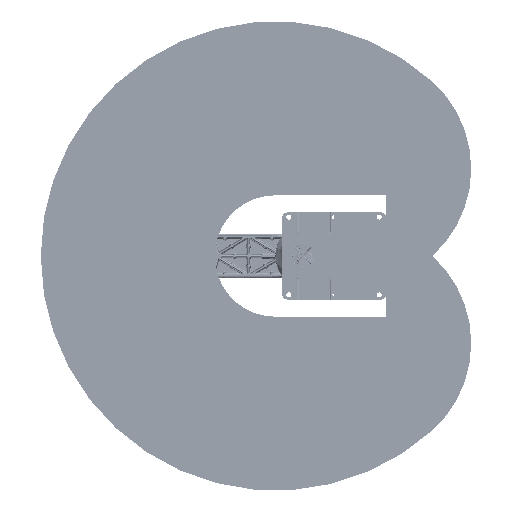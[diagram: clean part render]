
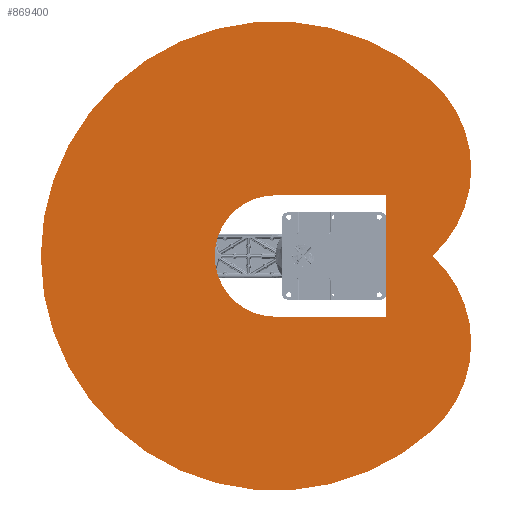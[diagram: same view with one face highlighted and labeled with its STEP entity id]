
A CAD part, front view. The second image highlights one B-rep face of the part: STEP entity #869400.
In plain terms, the highlighted planar face has unit normal (0, -1, 0) as drawn and (0, 0, 1) by its records, which use the part's own axes.
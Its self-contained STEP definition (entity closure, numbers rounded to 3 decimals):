
#2274 = DIRECTION ( 'NONE',  ( 0., 0., 1. ) ) ;
#10162 = DIRECTION ( 'NONE',  ( 1., 0., 0. ) ) ;
#15137 = CARTESIAN_POINT ( 'NONE',  ( 330., 181.173, 400. ) ) ;
#17711 = CIRCLE ( 'NONE', #107865, 350. ) ;
#56833 = VERTEX_POINT ( 'NONE', #691748 ) ;
#69684 = VERTEX_POINT ( 'NONE', #341684 ) ;
#78155 = ORIENTED_EDGE ( 'NONE', *, *, #392614, .F. ) ;
#86671 = CARTESIAN_POINT ( 'NONE',  ( 234.196, 0., 400. ) ) ;
#89444 = ORIENTED_EDGE ( 'NONE', *, *, #748259, .F. ) ;
#95468 = CARTESIAN_POINT ( 'NONE',  ( 234.196, 260.101, 400. ) ) ;
#103516 = EDGE_CURVE ( 'NONE', #289150, #197646, #707518, .T. ) ;
#107865 = AXIS2_PLACEMENT_3D ( 'NONE', #95468, #600248, #167870 ) ;
#118713 = ORIENTED_EDGE ( 'NONE', *, *, #328517, .T. ) ;
#132892 = EDGE_CURVE ( 'NONE', #69684, #778021, #386343, .T. ) ;
#154848 = CARTESIAN_POINT ( 'NONE',  ( 0., 0., 400. ) ) ;
#158576 = CARTESIAN_POINT ( 'NONE',  ( 468.391, 520.201, 400. ) ) ;
#164893 = DIRECTION ( 'NONE',  ( 0., 0., 1. ) ) ;
#167870 = DIRECTION ( 'NONE',  ( -1., 0., 0. ) ) ;
#178665 = AXIS2_PLACEMENT_3D ( 'NONE', #154848, #659840, #227382 ) ;
#188409 = AXIS2_PLACEMENT_3D ( 'NONE', #434539, #2274, #507146 ) ;
#197646 = VERTEX_POINT ( 'NONE', #509560 ) ;
#206833 = DIRECTION ( 'NONE',  ( 0., 0., 1. ) ) ;
#210384 = CARTESIAN_POINT ( 'NONE',  ( 0., 0., 400. ) ) ;
#227382 = DIRECTION ( 'NONE',  ( 1., 0., 0. ) ) ;
#239015 = DIRECTION ( 'NONE',  ( -1., 0., 0. ) ) ;
#253180 = VERTEX_POINT ( 'NONE', #460985 ) ;
#264084 = ORIENTED_EDGE ( 'NONE', *, *, #132892, .T. ) ;
#269076 = ORIENTED_EDGE ( 'NONE', *, *, #837313, .T. ) ;
#282910 = DIRECTION ( 'NONE',  ( 1., 0., 0. ) ) ;
#289150 = VERTEX_POINT ( 'NONE', #462271 ) ;
#304250 = PLANE ( 'NONE',  #414419 ) ;
#328517 = EDGE_CURVE ( 'NONE', #560217, #636438, #506893, .T. ) ;
#330890 = FACE_OUTER_BOUND ( 'NONE', #700179, .T. ) ;
#341684 = CARTESIAN_POINT ( 'NONE',  ( 0., 181.173, 400. ) ) ;
#362448 = ORIENTED_EDGE ( 'NONE', *, *, #545745, .T. ) ;
#369937 = AXIS2_PLACEMENT_3D ( 'NONE', #639308, #206833, #711917 ) ;
#372912 = CARTESIAN_POINT ( 'NONE',  ( 0., 181.173, 400. ) ) ;
#376818 = DIRECTION ( 'NONE',  ( 0., 0., -1. ) ) ;
#386343 = LINE ( 'NONE', #372912, #747817 ) ;
#392614 = EDGE_CURVE ( 'NONE', #253180, #197646, #808004, .T. ) ;
#394459 = EDGE_CURVE ( 'NONE', #778021, #289150, #749187, .T. ) ;
#405052 = CARTESIAN_POINT ( 'NONE',  ( 330., 181.173, 400. ) ) ;
#414419 = AXIS2_PLACEMENT_3D ( 'NONE', #86671, #376818, #881908 ) ;
#434539 = CARTESIAN_POINT ( 'NONE',  ( 0., 0., 400. ) ) ;
#460985 = CARTESIAN_POINT ( 'NONE',  ( -181.173, 0., 400. ) ) ;
#462271 = CARTESIAN_POINT ( 'NONE',  ( 330., -181.173, 400. ) ) ;
#500171 = FACE_BOUND ( 'NONE', #909011, .T. ) ;
#506893 = CIRCLE ( 'NONE', #188409, 700. ) ;
#507103 = ORIENTED_EDGE ( 'NONE', *, *, #394459, .T. ) ;
#507146 = DIRECTION ( 'NONE',  ( 1., 0., 0. ) ) ;
#509560 = CARTESIAN_POINT ( 'NONE',  ( 0., -181.173, 400. ) ) ;
#545745 = EDGE_CURVE ( 'NONE', #636438, #56833, #789602, .T. ) ;
#557964 = CIRCLE ( 'NONE', #178665, 700. ) ;
#560217 = VERTEX_POINT ( 'NONE', #839455 ) ;
#597177 = CARTESIAN_POINT ( 'NONE',  ( 234.196, -260.101, 400. ) ) ;
#600248 = DIRECTION ( 'NONE',  ( 0., 0., -1. ) ) ;
#636438 = VERTEX_POINT ( 'NONE', #718313 ) ;
#639308 = CARTESIAN_POINT ( 'NONE',  ( 0., 0., 400. ) ) ;
#640329 = AXIS2_PLACEMENT_3D ( 'NONE', #597177, #164893, #669989 ) ;
#659840 = DIRECTION ( 'NONE',  ( 0., 0., 1. ) ) ;
#662772 = AXIS2_PLACEMENT_3D ( 'NONE', #210384, #715422, #282910 ) ;
#669989 = DIRECTION ( 'NONE',  ( 1., 0., 0. ) ) ;
#683851 = ORIENTED_EDGE ( 'NONE', *, *, #728553, .F. ) ;
#691748 = CARTESIAN_POINT ( 'NONE',  ( 468.391, 0., 400. ) ) ;
#700179 = EDGE_LOOP ( 'NONE', ( #89444, #269076, #118713, #362448 ) ) ;
#707518 = LINE ( 'NONE', #886138, #752806 ) ;
#711917 = DIRECTION ( 'NONE',  ( 1., 0., 0. ) ) ;
#715422 = DIRECTION ( 'NONE',  ( 0., 0., 1. ) ) ;
#718313 = CARTESIAN_POINT ( 'NONE',  ( 468.391, -520.201, 400. ) ) ;
#728553 = EDGE_CURVE ( 'NONE', #69684, #253180, #731773, .T. ) ;
#731773 = CIRCLE ( 'NONE', #662772, 181.173 ) ;
#747817 = VECTOR ( 'NONE', #10162, 1000. ) ;
#748259 = EDGE_CURVE ( 'NONE', #759655, #56833, #17711, .T. ) ;
#749187 = LINE ( 'NONE', #405052, #895902 ) ;
#752806 = VECTOR ( 'NONE', #239015, 1000. ) ;
#759655 = VERTEX_POINT ( 'NONE', #158576 ) ;
#778021 = VERTEX_POINT ( 'NONE', #15137 ) ;
#789602 = CIRCLE ( 'NONE', #640329, 350. ) ;
#808004 = CIRCLE ( 'NONE', #369937, 181.173 ) ;
#837313 = EDGE_CURVE ( 'NONE', #759655, #560217, #557964, .T. ) ;
#839455 = CARTESIAN_POINT ( 'NONE',  ( -700., 0., 400. ) ) ;
#869400 = ADVANCED_FACE ( 'NONE', ( #330890, #500171 ), #304250, .F. ) ;
#881908 = DIRECTION ( 'NONE',  ( -1., 0., 0. ) ) ;
#886138 = CARTESIAN_POINT ( 'NONE',  ( 330., -181.173, 400. ) ) ;
#895902 = VECTOR ( 'NONE', #907963, 1000. ) ;
#907963 = DIRECTION ( 'NONE',  ( 0., -1., 0. ) ) ;
#909011 = EDGE_LOOP ( 'NONE', ( #683851, #264084, #507103, #931395, #78155 ) ) ;
#931395 = ORIENTED_EDGE ( 'NONE', *, *, #103516, .T. ) ;
